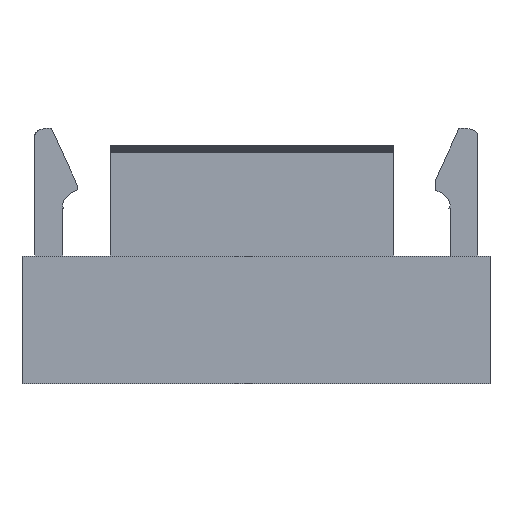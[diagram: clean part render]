
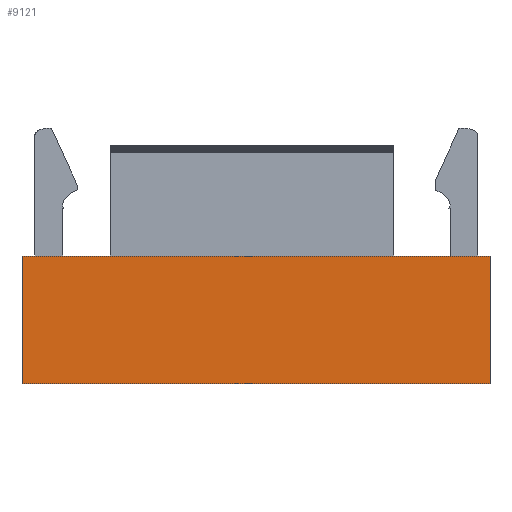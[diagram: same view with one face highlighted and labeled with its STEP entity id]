
A CAD part, front view. The second image highlights one B-rep face of the part: STEP entity #9121.
In plain terms, the highlighted planar face has unit normal (0, -1, 0).
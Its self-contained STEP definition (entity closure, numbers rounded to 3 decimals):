
#27=FACE_OUTER_BOUND('',#488,.T.);
#488=EDGE_LOOP('',(#5948,#5949,#5950,#5951));
#965=LINE('',#12360,#2324);
#966=LINE('',#12362,#2325);
#967=LINE('',#12364,#2326);
#968=LINE('',#12365,#2327);
#2324=VECTOR('',#10071,1.);
#2325=VECTOR('',#10072,1.);
#2326=VECTOR('',#10073,1.);
#2327=VECTOR('',#10074,1.);
#3683=VERTEX_POINT('',#12358);
#3684=VERTEX_POINT('',#12359);
#3685=VERTEX_POINT('',#12361);
#3686=VERTEX_POINT('',#12363);
#4589=EDGE_CURVE('',#3683,#3684,#965,.T.);
#4590=EDGE_CURVE('',#3685,#3683,#966,.T.);
#4591=EDGE_CURVE('',#3686,#3685,#967,.T.);
#4592=EDGE_CURVE('',#3686,#3684,#968,.T.);
#5948=ORIENTED_EDGE('',*,*,#4589,.F.);
#5949=ORIENTED_EDGE('',*,*,#4590,.F.);
#5950=ORIENTED_EDGE('',*,*,#4591,.F.);
#5951=ORIENTED_EDGE('',*,*,#4592,.T.);
#8660=PLANE('',#9596);
#9121=ADVANCED_FACE('',(#27),#8660,.T.);
#9596=AXIS2_PLACEMENT_3D('',#12357,#10069,#10070);
#10069=DIRECTION('center_axis',(0.,-1.,0.));
#10070=DIRECTION('ref_axis',(0.,0.,-1.));
#10071=DIRECTION('',(0.,0.,-1.));
#10072=DIRECTION('',(1.,0.,0.));
#10073=DIRECTION('',(0.,0.,1.));
#10074=DIRECTION('',(1.,0.,0.));
#12357=CARTESIAN_POINT('Origin',(356.25,84.835,90.));
#12358=CARTESIAN_POINT('',(356.175,84.835,105.));
#12359=CARTESIAN_POINT('',(356.175,84.835,90.));
#12360=CARTESIAN_POINT('',(356.175,84.835,105.));
#12361=CARTESIAN_POINT('',(301.25,84.835,105.));
#12362=CARTESIAN_POINT('',(301.25,84.835,105.));
#12363=CARTESIAN_POINT('',(301.25,84.835,90.));
#12364=CARTESIAN_POINT('',(301.25,84.835,90.));
#12365=CARTESIAN_POINT('',(301.25,84.835,90.));
